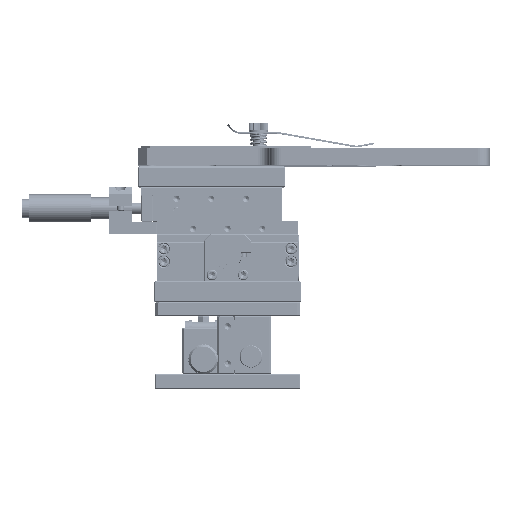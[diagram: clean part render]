
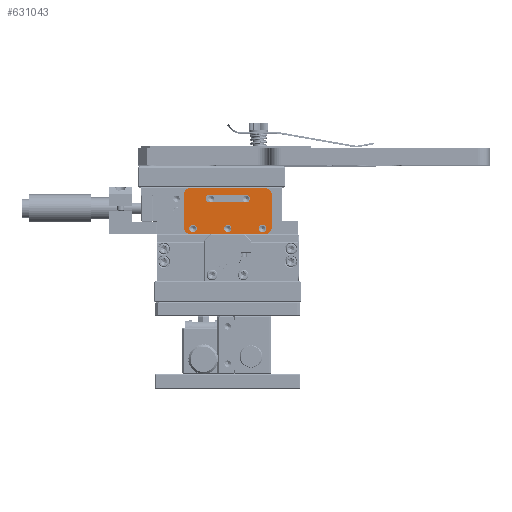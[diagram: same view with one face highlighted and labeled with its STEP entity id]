
A CAD part, top view. The second image highlights one B-rep face of the part: STEP entity #631043.
In plain terms, the highlighted planar face has unit normal (0, 0, 1) as drawn and (0, 0, -1) by its records, which use the part's own axes.
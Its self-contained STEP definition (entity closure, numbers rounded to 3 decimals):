
#630648=CARTESIAN_POINT('',(-16.,7.,0.));
#630649=DIRECTION('',(0.,0.,1.));
#630650=DIRECTION('',(0.,1.,0.));
#630651=AXIS2_PLACEMENT_3D('',#630648,#630649,#630650);
#630653=DIRECTION('',(0.,-1.,0.));
#630654=VECTOR('',#630653,14.);
#630655=CARTESIAN_POINT('',(-19.,7.,0.));
#630656=LINE('',#630655,#630654);
#630657=CARTESIAN_POINT('',(-16.,-7.,0.));
#630658=DIRECTION('',(0.,0.,1.));
#630659=DIRECTION('',(-1.,0.,0.));
#630660=AXIS2_PLACEMENT_3D('',#630657,#630658,#630659);
#630662=DIRECTION('',(1.,0.,0.));
#630663=VECTOR('',#630662,32.);
#630664=CARTESIAN_POINT('',(-16.,-10.,0.));
#630665=LINE('',#630664,#630663);
#630666=CARTESIAN_POINT('',(16.,-7.,0.));
#630667=DIRECTION('',(0.,0.,1.));
#630668=DIRECTION('',(0.,-1.,0.));
#630669=AXIS2_PLACEMENT_3D('',#630666,#630667,#630668);
#630671=DIRECTION('',(0.,1.,0.));
#630672=VECTOR('',#630671,14.);
#630673=CARTESIAN_POINT('',(19.,-7.,0.));
#630674=LINE('',#630673,#630672);
#630675=CARTESIAN_POINT('',(16.,7.,0.));
#630676=DIRECTION('',(0.,0.,1.));
#630677=DIRECTION('',(1.,0.,0.));
#630678=AXIS2_PLACEMENT_3D('',#630675,#630676,#630677);
#630680=DIRECTION('',(-1.,0.,0.));
#630681=VECTOR('',#630680,32.);
#630682=CARTESIAN_POINT('',(16.,10.,0.));
#630683=LINE('',#630682,#630681);
#630684=CARTESIAN_POINT('',(0.,-7.5,0.));
#630685=DIRECTION('',(0.,0.,-1.));
#630686=DIRECTION('',(-1.,0.,0.));
#630687=AXIS2_PLACEMENT_3D('',#630684,#630685,#630686);
#630689=CARTESIAN_POINT('',(0.,-7.5,0.));
#630690=DIRECTION('',(0.,0.,-1.));
#630691=DIRECTION('',(1.,0.,0.));
#630692=AXIS2_PLACEMENT_3D('',#630689,#630690,#630691);
#630694=CARTESIAN_POINT('',(-15.,-7.5,0.));
#630695=DIRECTION('',(0.,0.,-1.));
#630696=DIRECTION('',(-1.,0.,0.));
#630697=AXIS2_PLACEMENT_3D('',#630694,#630695,#630696);
#630699=CARTESIAN_POINT('',(-15.,-7.5,0.));
#630700=DIRECTION('',(0.,0.,-1.));
#630701=DIRECTION('',(1.,0.,0.));
#630702=AXIS2_PLACEMENT_3D('',#630699,#630700,#630701);
#630704=CARTESIAN_POINT('',(15.,-7.5,0.));
#630705=DIRECTION('',(0.,0.,-1.));
#630706=DIRECTION('',(-1.,0.,0.));
#630707=AXIS2_PLACEMENT_3D('',#630704,#630705,#630706);
#630709=CARTESIAN_POINT('',(15.,-7.5,0.));
#630710=DIRECTION('',(0.,0.,-1.));
#630711=DIRECTION('',(1.,0.,0.));
#630712=AXIS2_PLACEMENT_3D('',#630709,#630710,#630711);
#630714=CARTESIAN_POINT('',(-8.,5.4,0.));
#630715=DIRECTION('',(0.,0.,-1.));
#630716=DIRECTION('',(0.,-1.,0.));
#630717=AXIS2_PLACEMENT_3D('',#630714,#630715,#630716);
#630719=CARTESIAN_POINT('',(-8.,5.4,0.));
#630720=DIRECTION('',(0.,0.,-1.));
#630721=DIRECTION('',(-1.,0.,0.));
#630722=AXIS2_PLACEMENT_3D('',#630719,#630720,#630721);
#630724=CARTESIAN_POINT('',(8.,5.4,0.));
#630725=DIRECTION('',(0.,0.,-1.));
#630726=DIRECTION('',(0.,1.,0.));
#630727=AXIS2_PLACEMENT_3D('',#630724,#630725,#630726);
#630729=CARTESIAN_POINT('',(8.,5.4,0.));
#630730=DIRECTION('',(0.,0.,-1.));
#630731=DIRECTION('',(1.,0.,0.));
#630732=AXIS2_PLACEMENT_3D('',#630729,#630730,#630731);
#630892=DIRECTION('',(-1.,0.,0.));
#630893=VECTOR('',#630892,16.);
#630894=CARTESIAN_POINT('',(8.,7.,0.));
#630895=LINE('',#630894,#630893);
#630904=DIRECTION('',(1.,0.,0.));
#630905=VECTOR('',#630904,16.);
#630906=CARTESIAN_POINT('',(-8.,3.8,0.));
#630907=LINE('',#630906,#630905);
#630908=CARTESIAN_POINT('',(-16.,10.,0.));
#630909=CARTESIAN_POINT('',(-19.,7.,0.));
#630910=VERTEX_POINT('',#630908);
#630911=VERTEX_POINT('',#630909);
#630912=CARTESIAN_POINT('',(-19.,-7.,0.));
#630913=VERTEX_POINT('',#630912);
#630914=CARTESIAN_POINT('',(-16.,-10.,0.));
#630915=VERTEX_POINT('',#630914);
#630916=CARTESIAN_POINT('',(16.,-10.,0.));
#630917=VERTEX_POINT('',#630916);
#630918=CARTESIAN_POINT('',(19.,-7.,0.));
#630919=VERTEX_POINT('',#630918);
#630920=CARTESIAN_POINT('',(19.,7.,0.));
#630921=VERTEX_POINT('',#630920);
#630922=CARTESIAN_POINT('',(16.,10.,0.));
#630923=VERTEX_POINT('',#630922);
#630924=CARTESIAN_POINT('',(-1.6,-7.5,0.));
#630925=CARTESIAN_POINT('',(1.6,-7.5,0.));
#630926=VERTEX_POINT('',#630924);
#630927=VERTEX_POINT('',#630925);
#630928=CARTESIAN_POINT('',(-16.6,-7.5,0.));
#630929=CARTESIAN_POINT('',(-13.4,-7.5,0.));
#630930=VERTEX_POINT('',#630928);
#630931=VERTEX_POINT('',#630929);
#630932=CARTESIAN_POINT('',(13.4,-7.5,0.));
#630933=CARTESIAN_POINT('',(16.6,-7.5,0.));
#630934=VERTEX_POINT('',#630932);
#630935=VERTEX_POINT('',#630933);
#630936=CARTESIAN_POINT('',(-8.,3.8,0.));
#630937=CARTESIAN_POINT('',(-9.6,5.4,0.));
#630938=VERTEX_POINT('',#630936);
#630939=VERTEX_POINT('',#630937);
#630940=CARTESIAN_POINT('',(-8.,7.,0.));
#630941=VERTEX_POINT('',#630940);
#630942=CARTESIAN_POINT('',(8.,7.,0.));
#630943=VERTEX_POINT('',#630942);
#630944=CARTESIAN_POINT('',(9.6,5.4,0.));
#630945=VERTEX_POINT('',#630944);
#630946=CARTESIAN_POINT('',(8.,3.8,0.));
#630947=VERTEX_POINT('',#630946);
#630988=CARTESIAN_POINT('',(0.,0.,0.));
#630989=DIRECTION('',(0.,0.,1.));
#630990=DIRECTION('',(1.,0.,0.));
#630991=AXIS2_PLACEMENT_3D('',#630988,#630989,#630990);
#630992=PLANE('',#630991);
#630994=ORIENTED_EDGE('',*,*,#630993,.T.);
#630996=ORIENTED_EDGE('',*,*,#630995,.T.);
#630998=ORIENTED_EDGE('',*,*,#630997,.T.);
#631000=ORIENTED_EDGE('',*,*,#630999,.T.);
#631002=ORIENTED_EDGE('',*,*,#631001,.T.);
#631004=ORIENTED_EDGE('',*,*,#631003,.T.);
#631006=ORIENTED_EDGE('',*,*,#631005,.T.);
#631008=ORIENTED_EDGE('',*,*,#631007,.T.);
#631009=EDGE_LOOP('',(#630994,#630996,#630998,#631000,#631002,#631004,#631006,
#631008));
#631010=FACE_OUTER_BOUND('',#631009,.F.);
#631012=ORIENTED_EDGE('',*,*,#631011,.T.);
#631014=ORIENTED_EDGE('',*,*,#631013,.T.);
#631015=EDGE_LOOP('',(#631012,#631014));
#631016=FACE_BOUND('',#631015,.F.);
#631018=ORIENTED_EDGE('',*,*,#631017,.T.);
#631020=ORIENTED_EDGE('',*,*,#631019,.T.);
#631021=EDGE_LOOP('',(#631018,#631020));
#631022=FACE_BOUND('',#631021,.F.);
#631024=ORIENTED_EDGE('',*,*,#631023,.T.);
#631026=ORIENTED_EDGE('',*,*,#631025,.T.);
#631027=EDGE_LOOP('',(#631024,#631026));
#631028=FACE_BOUND('',#631027,.F.);
#631030=ORIENTED_EDGE('',*,*,#631029,.T.);
#631032=ORIENTED_EDGE('',*,*,#631031,.T.);
#631034=ORIENTED_EDGE('',*,*,#631033,.F.);
#631036=ORIENTED_EDGE('',*,*,#631035,.T.);
#631038=ORIENTED_EDGE('',*,*,#631037,.T.);
#631040=ORIENTED_EDGE('',*,*,#631039,.F.);
#631041=EDGE_LOOP('',(#631030,#631032,#631034,#631036,#631038,#631040));
#631042=FACE_BOUND('',#631041,.F.);
#631043=ADVANCED_FACE('',(#631010,#631016,#631022,#631028,#631042),#630992,.F.);
#630652=CIRCLE('',#630651,3.);
#630661=CIRCLE('',#630660,3.);
#630670=CIRCLE('',#630669,3.);
#630679=CIRCLE('',#630678,3.);
#630688=CIRCLE('',#630687,1.6);
#630693=CIRCLE('',#630692,1.6);
#630698=CIRCLE('',#630697,1.6);
#630703=CIRCLE('',#630702,1.6);
#630708=CIRCLE('',#630707,1.6);
#630713=CIRCLE('',#630712,1.6);
#630718=CIRCLE('',#630717,1.6);
#630723=CIRCLE('',#630722,1.6);
#630728=CIRCLE('',#630727,1.6);
#630733=CIRCLE('',#630732,1.6);
#630993=EDGE_CURVE('',#630910,#630911,#630652,.T.);
#630995=EDGE_CURVE('',#630911,#630913,#630656,.T.);
#630997=EDGE_CURVE('',#630913,#630915,#630661,.T.);
#630999=EDGE_CURVE('',#630915,#630917,#630665,.T.);
#631001=EDGE_CURVE('',#630917,#630919,#630670,.T.);
#631003=EDGE_CURVE('',#630919,#630921,#630674,.T.);
#631005=EDGE_CURVE('',#630921,#630923,#630679,.T.);
#631007=EDGE_CURVE('',#630923,#630910,#630683,.T.);
#631011=EDGE_CURVE('',#630926,#630927,#630688,.T.);
#631013=EDGE_CURVE('',#630927,#630926,#630693,.T.);
#631017=EDGE_CURVE('',#630930,#630931,#630698,.T.);
#631019=EDGE_CURVE('',#630931,#630930,#630703,.T.);
#631023=EDGE_CURVE('',#630934,#630935,#630708,.T.);
#631025=EDGE_CURVE('',#630935,#630934,#630713,.T.);
#631029=EDGE_CURVE('',#630938,#630939,#630718,.T.);
#631031=EDGE_CURVE('',#630939,#630941,#630723,.T.);
#631033=EDGE_CURVE('',#630943,#630941,#630895,.T.);
#631035=EDGE_CURVE('',#630943,#630945,#630728,.T.);
#631037=EDGE_CURVE('',#630945,#630947,#630733,.T.);
#631039=EDGE_CURVE('',#630938,#630947,#630907,.T.);
